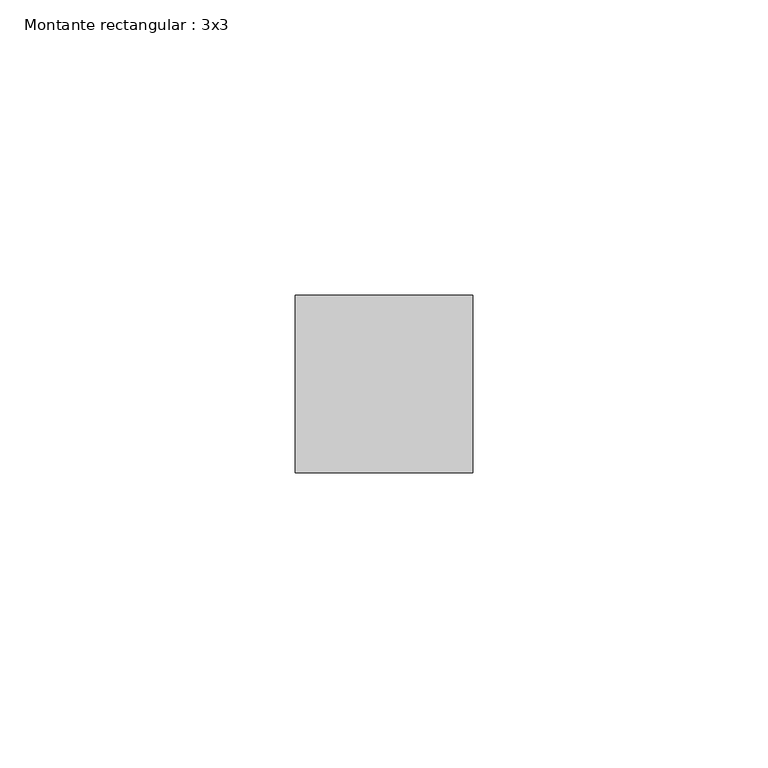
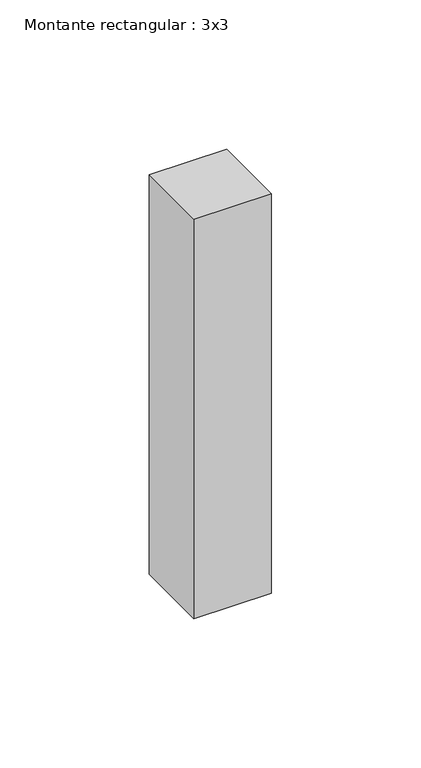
"""IFC4 building model written with IfcOpenShell, lengths in millimetres: member geometry, Montante rectangular : 3x3."""

from ifc_helpers import new_model, si_unit, frame, origin, place, context, project, spatial, polyline, outline, extrude, source, transform, mapped, element, save


def montante_rectangular_3x3_992bb8ce(model_context):
    return source(origin(), model_context, "Body", "SweptSolid", [
        extrude(outline(polyline([(15.0, 15.0), (15.0, -15.0), (-15.0, -15.0), (-15.0, 15.0), (15.0, 15.0)])), frame((0.0, 0.0, -163.5064249), z_axis=(0.0, 0.0, 1.0), x_axis=(1.0, 0.0, 0.0)), (0.0, 0.0, 1.0), 163.5064249),
    ])


if __name__ == "__main__":
    model = new_model("IFC4")
    model_context = context("Model", 3, world=origin())
    ifc_project = project(units=[si_unit("LENGTHUNIT", "METRE", prefix="MILLI")], contexts=[model_context])
    site = spatial("IfcSite", under=ifc_project)
    building = spatial("IfcBuilding", under=site)
    placement = place(None, origin())
    montante_rectangular_3x3_shape = montante_rectangular_3x3_992bb8ce(model_context)
    element("IfcMember", 1, ObjectType="Montante rectangular : 3x3", at=placement, inside=building, context=model_context, shape_type="MappedRepresentation", body=[
        mapped(montante_rectangular_3x3_shape, transform((0.0, 0.0, 0.0), x_axis=(1.0, 0.0, 0.0), y_axis=(0.0, 1.0, 0.0), z_axis=(0.0, 0.0, 1.0))),
    ])
    save(model, "model.ifc")
